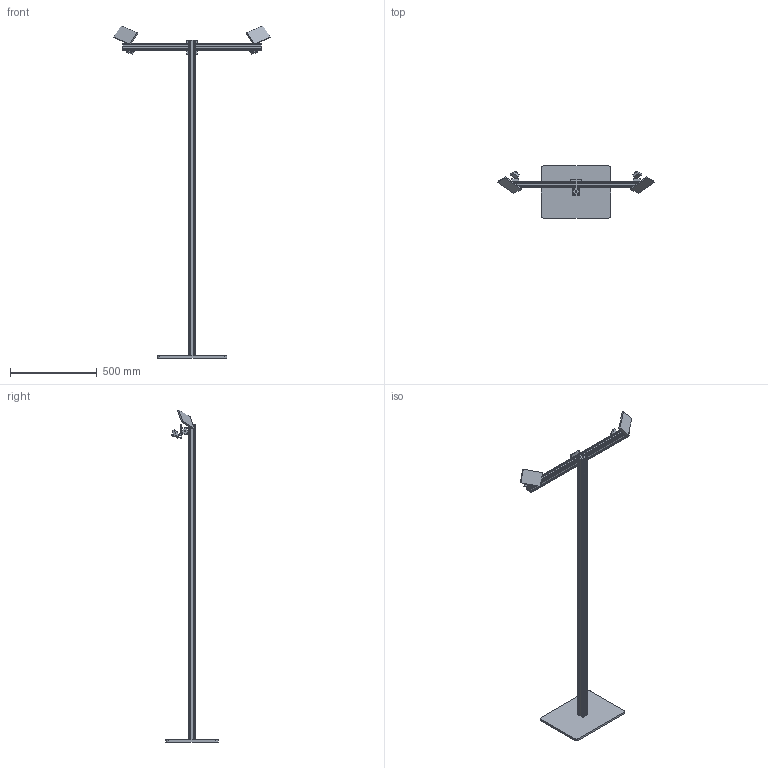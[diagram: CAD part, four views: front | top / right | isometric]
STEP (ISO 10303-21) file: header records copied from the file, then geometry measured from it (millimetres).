
FILE_DESCRIPTION(('Open CASCADE Model'),'2;1');
FILE_NAME('Open CASCADE Shape Model','2026-10-17T21:01:29',('Author'),( 'Open CASCADE'),'Open CASCADE STEP processor 7.9','Open CASCADE 7.9' ,'Unknown');
FILE_SCHEMA(('AUTOMOTIVE_DESIGN { 1 0 10303 214 1 1 1 1 }'));
Length unit declared in the file: millimetre
Products named in the file (13): CAMERA_MAST; mast_base_plate; mast_post_4040; mast_crossbar_4040; mast_corner_bracket_plate; cam_A_bracket; cam_A_camera_housing; cam_A_camera_lens_6mm; cam_B_bracket; cam_B_camera_housing; cam_B_camera_lens_6mm; led_panel_0; led_panel_1
Assembly tree (12 placements, depth 2):
  CAMERA_MAST
    mast_base_plate
    mast_post_4040
    mast_crossbar_4040
    mast_corner_bracket_plate
    cam_A_bracket
    cam_A_camera_housing
    cam_A_camera_lens_6mm
    cam_B_bracket
    cam_B_camera_housing
    cam_B_camera_lens_6mm
    led_panel_0
    led_panel_1
Bounding box: 902.68 x 300 x 1911.73 mm (x, y, z)
Volume: 4730041 mm3; surface area: 1070206.6 mm2
Topology: 20 solids, 20 shells, 152 faces, 336 edges, 224 vertices
Faces by surface type: plane 144, cylinder 8
Full cylindrical faces by diameter (mm): 8.4 x2, 14 x2
Entity records: 8562 total; most frequent: CARTESIAN_POINT 1709, DIRECTION 1062, LINE 688, VECTOR 688, ORIENTED_EDGE 672, PCURVE 672, DEFINITIONAL_REPRESENTATION 672, EDGE_CURVE 336
